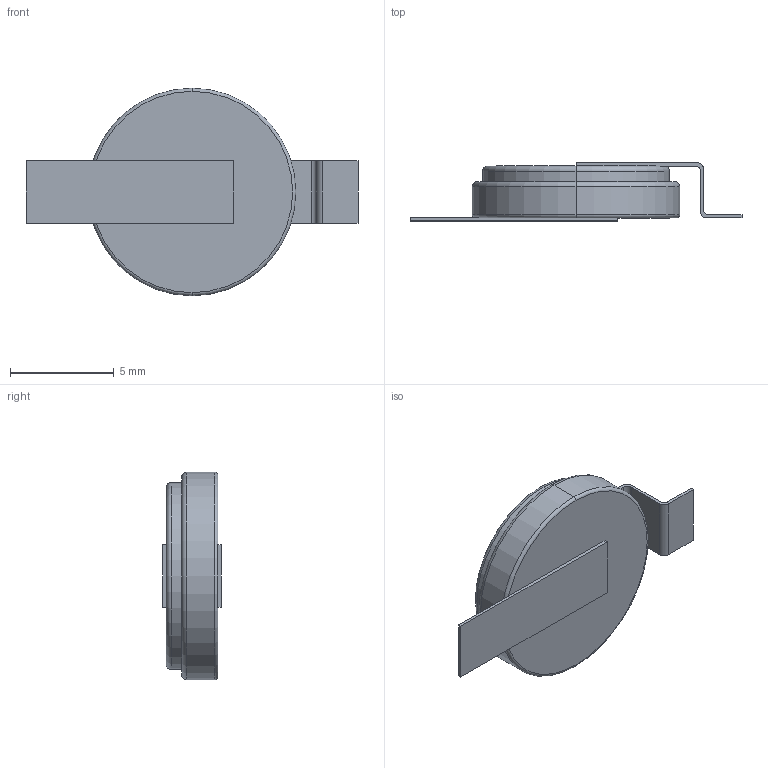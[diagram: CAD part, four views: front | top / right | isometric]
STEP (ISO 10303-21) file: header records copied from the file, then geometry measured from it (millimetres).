
FILE_DESCRIPTION (( 'STEP AP214' ), '1' );
FILE_NAME ('CR1025SM.STEP', '2023-01-03T08:55:38', ( '' ), ( '' ), 'SwSTEP 2.0', 'SolidWorks 2022', '' );
FILE_SCHEMA (( 'AUTOMOTIVE_DESIGN' ));
Length unit declared in the file: millimetre
Products named in the file (1): CR1025SM
Bounding box: 16 x 2.8 x 10 mm (x, y, z)
Volume: 193.4 mm3; surface area: 354.1 mm2
Topology: 3 solids, 3 shells, 33 faces, 72 edges, 46 vertices
Faces by surface type: plane 19, cylinder 8, torus 6
Entity records: 958 total; most frequent: DIRECTION 168, CARTESIAN_POINT 152, ORIENTED_EDGE 144, EDGE_CURVE 72, AXIS2_PLACEMENT_3D 62, VERTEX_POINT 46, VECTOR 44, LINE 44
